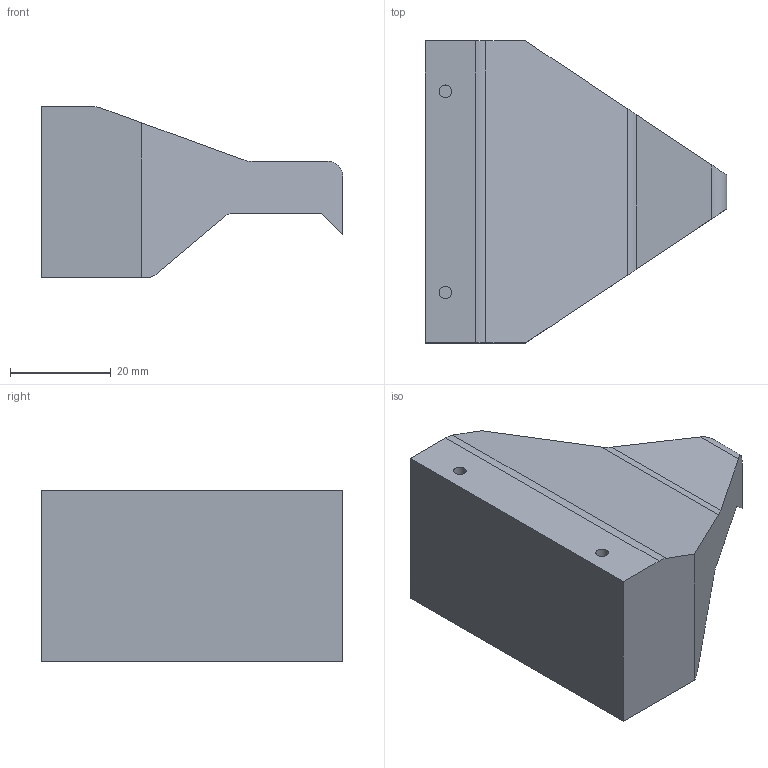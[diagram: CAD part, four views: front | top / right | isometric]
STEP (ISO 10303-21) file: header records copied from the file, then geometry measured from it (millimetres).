
FILE_DESCRIPTION(('FreeCAD Model'),'2;1');
FILE_NAME('/home/alexandre/Bureau/Cours-FreeCAD/Exemples/Assemblage/Piece-2.step', '2016-05-29T10:38:42',('Almisuifre'),(''), 'Open CASCADE STEP processor 6.8','FreeCAD','Unknown');
FILE_SCHEMA(('AUTOMOTIVE_DESIGN_CC2 { 1 2 10303 214 -1 1 5 4 }'));
Length unit declared in the file: millimetre
Products named in the file (2): ASSEMBLY; Pocket002
Assembly tree (1 placements, depth 2):
  ASSEMBLY
    Pocket002
Bounding box: 59.95 x 60 x 34 mm (x, y, z)
Volume: 64058.1 mm3; surface area: 10726.9 mm2
Topology: 1 solids, 1 shells, 26 faces, 60 edges, 40 vertices
Faces by surface type: plane 17, cylinder 9
Full cylindrical faces by diameter (mm): 2.5 x4
Entity records: 1593 total; most frequent: CARTESIAN_POINT 364, DIRECTION 214, ORIENTED_EDGE 120, PCURVE 120, DEFINITIONAL_REPRESENTATION 120, LINE 108, VECTOR 108, EDGE_CURVE 60
